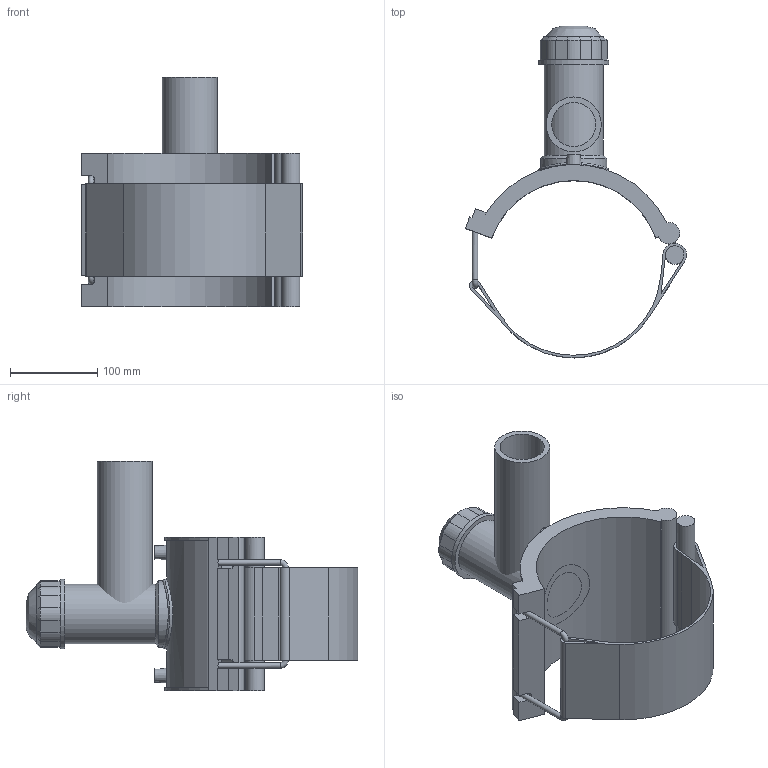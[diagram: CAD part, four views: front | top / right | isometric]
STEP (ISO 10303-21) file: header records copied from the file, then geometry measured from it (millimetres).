
FILE_DESCRIPTION(/* description */ (''),/* implementation_level */ '2;1');
FILE_NAME(/* name */ 'C:\Dropbox\KIMPROJECTS-Inventor 2019\99-16-3568-Processing\ElectroFusion Fittings\4963P4\stp\4963P4200063.stp',/* time_stamp */ '2022-03-17T11:32:04+02:00',/* author */ ('KIM'),/* organization */ (''),/* preprocessor_version */ 'ST-DEVELOPER v17.2',/* originating_system */ 'Autodesk Inventor 2019',/* authorisation */ '');
FILE_SCHEMA (('AUTOMOTIVE_DESIGN { 1 0 10303 214 3 1 1 }'));
Length unit declared in the file: millimetre
Products named in the file (1): 4963P4200063
Bounding box: 253.17 x 380 x 263 mm (x, y, z)
Volume: 1676006.4 mm3; surface area: 375877 mm2
Topology: 3 solids, 3 shells, 122 faces, 309 edges, 201 vertices
Faces by surface type: plane 69, cylinder 38, cone 11, torus 2, bspline 2
Full cylindrical faces by diameter (mm): 4 x2, 6.4 x2, 10 x2, 21.077 x1, 50.4 x1, 56 x1, 63 x1, 68 x1, 76 x1, 80 x2
Entity records: 4173 total; most frequent: CARTESIAN_POINT 1087, DIRECTION 653, ORIENTED_EDGE 620, EDGE_CURVE 310, AXIS2_PLACEMENT_3D 237, VERTEX_POINT 201, LINE 179, VECTOR 179
